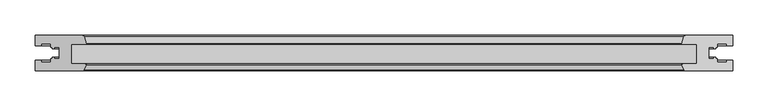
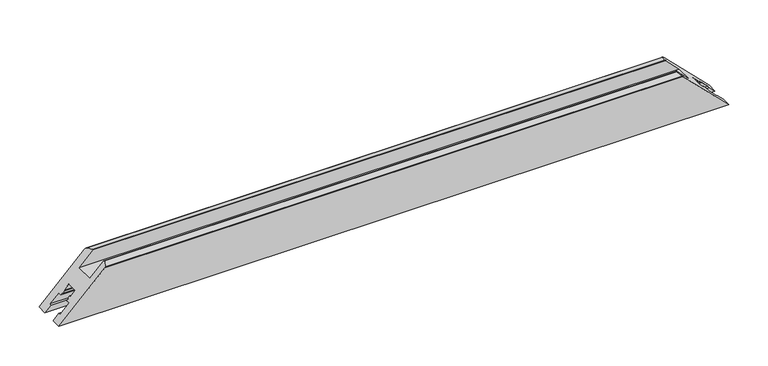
"""IFC4 building model written with IfcOpenShell, lengths in millimetres: proxy geometry, Weiku - Montante - Folha de correr 02.2.01.020 : Weiku - Montante - Folha de correr 02.2.01.020."""

import ifcopenshell
import ifcopenshell.guid

model = None  # the IFC model being written
_history = None  # IfcOwnerHistory: only IFC2X3 demands one
_inside = {}  # id of a spatial element -> (the spatial element, [elements in it])
_under = {}  # id of a project, library or spatial element -> (it, [spatial elements below it])
_declared = {}  # id of a project -> (the project, [libraries it declares])
_typed = {}  # id of a type object -> (the type object, [elements of that type])
_made_of = {}  # id of a material, layer set ... -> (it, [elements and type objects made of it])


def new_model(schema):
    """Start an empty IFC model of exactly this schema.

    Asked for "IFC4X3", IfcOpenShell would pick the latest addendum, in which some entities
    have other attributes; the version numbers below select the first issue.
    IFC2X3 requires an IfcOwnerHistory on every rooted entity: one is made here for all.
    """
    global model, _history
    if schema == "IFC4X3":
        model = ifcopenshell.file(schema_version=(4, 3, 0, 0))
    else:
        model = ifcopenshell.file(schema=schema)
    _inside.clear()
    _under.clear()
    _declared.clear()
    _typed.clear()
    _made_of.clear()
    _history = None
    if model.schema == "IFC2X3":
        org = make("IfcOrganization", Name="unknown")
        user = make(
            "IfcPersonAndOrganization",
            ThePerson=make("IfcPerson", FamilyName="unknown"),
            TheOrganization=org,
        )
        app = make(
            "IfcApplication",
            ApplicationDeveloper=org,
            Version="unknown",
            ApplicationFullName="unknown",
            ApplicationIdentifier="unknown",
        )
        _history = make(
            "IfcOwnerHistory",
            OwningUser=user,
            OwningApplication=app,
            ChangeAction="ADDED",
            CreationDate=0,
        )
    return model


def make(cls, **values):
    """One entity of the class cls with the attributes given. An attribute that is None is left unset."""
    return model.create_entity(
        cls, **{name: value for name, value in values.items() if value is not None}
    )


def rooted(cls, **values):
    """An entity with a GlobalId (a new one), such as an element, a storey or a relation."""
    return make(cls, GlobalId=ifcopenshell.guid.new(), OwnerHistory=_history, **values)


def si_unit(unit_type, name, prefix=None):
    """IfcSIUnit, for example si_unit("LENGTHUNIT", "METRE", prefix="MILLI")."""
    return make("IfcSIUnit", UnitType=unit_type, Prefix=prefix, Name=name)


def assignment(units):
    """IfcUnitAssignment: the units of a project."""
    return None if units is None else make("IfcUnitAssignment", Units=units)


def point(xyz):
    """IfcCartesianPoint."""
    return None if xyz is None else make("IfcCartesianPoint", Coordinates=xyz)


def direction(xyz):
    """IfcDirection."""
    return None if xyz is None else make("IfcDirection", DirectionRatios=xyz)


def frame(location, z_axis=None, x_axis=None):
    """IfcAxis2Placement3D, a coordinate frame: its origin and axes. An axis left out is left unset."""
    return make(
        "IfcAxis2Placement3D",
        Location=point(location),
        Axis=direction(z_axis),
        RefDirection=direction(x_axis),
    )


def origin():
    """The frame at (0, 0, 0) with its axes left unset."""
    return frame((0.0, 0.0, 0.0))


def place(relative_to, where):
    """IfcLocalPlacement: puts the frame where relative to a parent placement (None: the world)."""
    return make(
        "IfcLocalPlacement", PlacementRelTo=relative_to, RelativePlacement=where
    )


def context(
    kind, dimensions, precision=None, world=None, true_north=None, identifier=None
):
    """IfcGeometricRepresentationContext, for example the 3D "Model" context."""
    return make(
        "IfcGeometricRepresentationContext",
        ContextIdentifier=identifier,
        ContextType=kind,
        CoordinateSpaceDimension=dimensions,
        Precision=precision,
        WorldCoordinateSystem=world,
        TrueNorth=true_north,
    )


def project(units=None, contexts=None):
    """IfcProject with its units and contexts."""
    return rooted(
        "IfcProject",
        Name="project",
        RepresentationContexts=contexts,
        UnitsInContext=assignment(units),
    )


def spatial(cls, under=None, at=None, **own):
    """A site, building, storey or space (cls), placed at a placement, below another one or the project."""
    s = rooted(cls, ObjectPlacement=at, **own)
    if under is not None:
        _under.setdefault(under.id(), (under, []))[1].append(s)
    return s


def ellipse_curve(where, semi_axis1, semi_axis2):
    """IfcEllipse in the frame where."""
    return make(
        "IfcEllipse", Position=where, SemiAxis1=semi_axis1, SemiAxis2=semi_axis2
    )


def shape(context_of_items, identifier, shape_type, items):
    """IfcShapeRepresentation: the items that make up one representation, for example the "Body"."""
    return make(
        "IfcShapeRepresentation",
        ContextOfItems=context_of_items,
        RepresentationIdentifier=identifier,
        RepresentationType=shape_type,
        Items=items,
    )


def source(mapping_origin, context_of_items, identifier, shape_type, items):
    """IfcRepresentationMap: a shape defined once, which mapped items show again and again."""
    return make(
        "IfcRepresentationMap",
        MappingOrigin=mapping_origin,
        MappedRepresentation=shape(context_of_items, identifier, shape_type, items),
    )


def transform(
    local_origin,
    x_axis=None,
    y_axis=None,
    z_axis=None,
    scale=None,
    scale2=None,
    scale3=None,
    uniform=True,
):
    """IfcCartesianTransformationOperator3D, or its non-uniform kind. x_axis, y_axis, z_axis: its Axis1, 2, 3."""
    if uniform:
        return make(
            "IfcCartesianTransformationOperator3D",
            Axis1=direction(x_axis),
            Axis2=direction(y_axis),
            LocalOrigin=point(local_origin),
            Scale=scale,
            Axis3=direction(z_axis),
        )
    return make(
        "IfcCartesianTransformationOperator3DnonUniform",
        Axis1=direction(x_axis),
        Axis2=direction(y_axis),
        LocalOrigin=point(local_origin),
        Scale=scale,
        Axis3=direction(z_axis),
        Scale2=scale2,
        Scale3=scale3,
    )


def mapped(mapping_source, mapping_target):
    """IfcMappedItem: shows the shape of a source again, moved by a transform."""
    return make(
        "IfcMappedItem", MappingSource=mapping_source, MappingTarget=mapping_target
    )


def made_of(thing, what):
    """Note that an element or type object is made of a material, layer set ...; save() writes the relation."""
    if what is not None:
        _made_of.setdefault(what.id(), (what, []))[1].append(thing)
    return thing


def element(
    cls,
    number,
    at=None,
    inside=None,
    cuts=None,
    type_object=None,
    material=None,
    context=None,
    identifier="Body",
    shape_type=None,
    held_by="IfcProductDefinitionShape",
    body=None,
    shapes=None,
    **own,
):
    """One element of the class cls, such as IfcWall. Its Tag is "e" and its number.

    at: its placement. inside: the storey or other place that contains it. cuts: it is an
    opening in that element (IfcRelVoidsElement). A single representation is given by context,
    identifier, shape_type and body (its items); several are given by shapes. held_by: the class
    of the entity that holds the representations. save() writes the other relations.
    """
    e = rooted(cls, Tag="e%d" % number, ObjectPlacement=at, **own)
    if body is not None:
        shapes = [shape(context, identifier, shape_type, body)]
    if shapes is not None:
        e.Representation = make(held_by, Representations=shapes)
    if inside is not None:
        _inside.setdefault(inside.id(), (inside, []))[1].append(e)
    if cuts is not None:
        rooted(
            "IfcRelVoidsElement", RelatingBuildingElement=cuts, RelatedOpeningElement=e
        )
    if type_object is not None:
        _typed.setdefault(type_object.id(), (type_object, []))[1].append(e)
    return made_of(e, material)


def aggregate(whole, parts):
    """IfcRelAggregates: a whole, such as a stair, and the parts it consists of."""
    return rooted("IfcRelAggregates", RelatingObject=whole, RelatedObjects=parts)


def save(model, path):
    """Write the relations noted so far, then the file.

    IfcRelAggregates (storeys below a building ...), IfcRelContainedInSpatialStructure (elements
    in a storey), IfcRelDefinesByType, IfcRelAssociatesMaterial and IfcRelDeclares: one each for
    every whole, place, type object, material and project.
    """
    for whole, parts in _under.values():
        aggregate(whole, parts)
    for where, things in _inside.values():
        rooted(
            "IfcRelContainedInSpatialStructure",
            RelatedElements=things,
            RelatingStructure=where,
        )
    for kind, things in _typed.values():
        rooted("IfcRelDefinesByType", RelatedObjects=things, RelatingType=kind)
    for what, things in _made_of.values():
        rooted("IfcRelAssociatesMaterial", RelatedObjects=things, RelatingMaterial=what)
    for by, libraries in _declared.values():
        rooted("IfcRelDeclares", RelatingContext=by, RelatedDefinitions=libraries)
    model.write(path)


def plane_surface(at):
    """IfcPlane: the flat surface through the origin of the frame at, square to its z axis."""
    return make("IfcPlane", Position=at)


def cylinder_surface(at, radius):
    """IfcCylindricalSurface: all points at the distance radius from the z axis of the frame at."""
    return make("IfcCylindricalSurface", Position=at, Radius=radius)


def advanced_brep(points, edges, surfaces, faces):
    """IfcAdvancedBrep: a solid bounded by faces that lie on surfaces and meet in shared edges.

    An edge is (start, end): straight between two places in points (the first is 0);
    or (start, end, curve); or (start, end, curve, False) where it runs against its curve.
    A face is (place in surfaces, loops), or (place, loops, False) where it looks against
    its surface's normal. A loop lists edges by number (the first is 1), with a minus sign
    where the edge is run from its end to its start. The first loop is the outer one.
    """
    corners = [point(p) for p in points]
    vertices = [make("IfcVertexPoint", VertexGeometry=c) for c in corners]
    made = []
    for start, end, *more in edges:
        made.append(
            make(
                "IfcEdgeCurve",
                EdgeStart=vertices[start],
                EdgeEnd=vertices[end],
                EdgeGeometry=more[0] if more else make("IfcPolyline", Points=[corners[start], corners[end]]),
                SameSense=more[1] if len(more) > 1 else True,
            )
        )
    hull = []
    for where, loops, *sense in faces:
        bounds = []
        for j, loop in enumerate(loops):
            ring = [make("IfcOrientedEdge", EdgeElement=made[abs(k) - 1], Orientation=k > 0) for k in loop]
            bounds.append(
                make(
                    "IfcFaceOuterBound" if j == 0 else "IfcFaceBound",
                    Bound=make("IfcEdgeLoop", EdgeList=ring),
                    Orientation=True,
                )
            )
        hull.append(make("IfcAdvancedFace", Bounds=bounds, FaceSurface=surfaces[where], SameSense=sense[0] if sense else True))
    return make("IfcAdvancedBrep", Outer=make("IfcClosedShell", CfsFaces=hull))


def generic_models_39b7ede1(model_context):
    return source(origin(), model_context, "Body", "AdvancedBrep", [
        advanced_brep(
        [(493.5, 50.0, 0.0), (-493.5, 50.0, 0.0), (-427.0004942, 50.0, 66.4995058), (427.0004942, 50.0, 66.4995058), (493.5, 35.5, 0.0), (-493.5, 35.5, 0.0), (-493.5, 0.0, 0.0), (493.5, 0.0, 0.0), (425.9879875, 0.0, 67.5120125), (-425.9879875, 0.0, 67.5120125), (-484.9, 35.5, 8.6), (-484.9, 38.3, 8.6), (-471.7, 38.3, 21.8), (-471.7, 33.1, 21.8), (-469.3524152, 33.1, 24.1475848), (-469.5273926, 31.1, 23.9726074), (-466.7, 31.1, 26.8), (-466.7, 33.1, 26.8), (-459.5, 33.1, 34.0), (-459.5, 16.9, 34.0), (-466.7, 16.9, 26.8), (-466.7, 18.9, 26.8), (-469.5273926, 18.9, 23.9726074), (-469.3524152, 16.9, 24.1475848), (-471.7, 16.9, 21.8), (-471.7, 11.7, 21.8), (-484.9, 11.7, 8.6), (-484.9, 14.5, 8.6), (-493.5, 14.5, 0.0), (-425.0940268, 0.5518546, 68.4059732), (-421.5520406, 7.617411, 71.9479594), (-422.7141895, 9.5, 70.7858105), (-442.5007611, 9.5, 50.9992389), (-442.5007611, 37.5, 50.9992389), (-422.0007611, 37.5, 71.4992389), (-421.5177981, 38.1294095, 71.9822019), (-424.1027168, 47.7764571, 69.3972832), (424.1027168, 47.7764571, 69.3972832), (421.5177981, 38.1294095, 71.9822019), (422.0007611, 37.5, 71.4992389), (442.5007611, 37.5, 50.9992389), (442.5007611, 9.5, 50.9992389), (422.7141895, 9.5, 70.7858105), (421.5520406, 7.617411, 71.9479594), (425.0940268, 0.5518546, 68.4059732), (493.5, 14.5, 0.0), (484.9, 14.5, 8.6), (484.9, 11.7, 8.6), (471.7, 11.7, 21.8), (471.7, 16.9, 21.8), (469.3524152, 16.9, 24.1475848), (469.5273926, 18.9, 23.9726074), (466.7, 18.9, 26.8), (466.7, 16.9, 26.8), (459.5, 16.9, 34.0), (459.5, 33.1, 34.0), (466.7, 33.1, 26.8), (466.7, 31.1, 26.8), (469.5273926, 31.1, 23.9726074), (469.3524152, 33.1, 24.1475848), (471.7, 33.1, 21.8), (471.7, 38.3, 21.8), (484.9, 38.3, 8.6), (484.9, 35.5, 8.6)],
        [
            (0, 1),
            (1, 2),
            (2, 3),
            (3, 0),
            (0, 4),
            (4, 5),
            (5, 1),
            (6, 7),
            (7, 8),
            (8, 9),
            (9, 6),
            (5, 10),
            (10, 11),
            (11, 12),
            (12, 13),
            (13, 14),
            (14, 15),
            (15, 16),
            (16, 17),
            (17, 18),
            (18, 19),
            (19, 20),
            (20, 21),
            (21, 22),
            (22, 23),
            (23, 24),
            (24, 25),
            (25, 26),
            (26, 27),
            (27, 28),
            (28, 6),
            (9, 29, ellipse_curve(frame((-425.9879875, 1.0, 67.5120125), z_axis=(-0.707106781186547, 0.0, 0.7071067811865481), x_axis=(-0.7071067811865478, 0.0, -0.707106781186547)), 1.4142136, 1.0)),
            (29, 30),
            (30, 31, ellipse_curve(frame((-422.7141895, 8.2, 70.7858105), z_axis=(-0.707106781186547, 0.0, 0.7071067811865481), x_axis=(-0.7071067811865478, 0.0, -0.707106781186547)), 1.8384776, 1.3)),
            (31, 32),
            (32, 33),
            (33, 34),
            (34, 35, ellipse_curve(frame((-422.0007611, 38.0, 71.4992389), z_axis=(-0.707106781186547, 0.0, 0.7071067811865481), x_axis=(-0.7071067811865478, 0.0, -0.707106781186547)), 0.7071068, 0.5)),
            (35, 36),
            (36, 2, ellipse_curve(frame((-427.0004942, 47.0, 66.4995058), z_axis=(-0.707106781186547, 0.0, 0.7071067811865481), x_axis=(-0.7071067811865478, 0.0, -0.707106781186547)), 4.2426407, 3.0)),
            (3, 37, ellipse_curve(frame((427.0004942, 47.0, 66.4995058), z_axis=(0.7071067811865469, 0.0, 0.7071067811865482), x_axis=(-0.707106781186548, 0.0, 0.7071067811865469)), 4.2426407, 3.0)),
            (37, 38),
            (38, 39, ellipse_curve(frame((422.0007611, 38.0, 71.4992389), z_axis=(0.7071067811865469, 0.0, 0.7071067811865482), x_axis=(-0.707106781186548, 0.0, 0.7071067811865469)), 0.7071068, 0.5)),
            (39, 40),
            (40, 41),
            (41, 42),
            (42, 43, ellipse_curve(frame((422.7141895, 8.2, 70.7858105), z_axis=(0.7071067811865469, 0.0, 0.7071067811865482), x_axis=(-0.707106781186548, 0.0, 0.7071067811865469)), 1.8384776, 1.3)),
            (43, 44),
            (44, 8, ellipse_curve(frame((425.9879875, 1.0, 67.5120125), z_axis=(0.7071067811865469, 0.0, 0.7071067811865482), x_axis=(-0.707106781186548, 0.0, 0.7071067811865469)), 1.4142136, 1.0)),
            (7, 45),
            (45, 46),
            (46, 47),
            (47, 48),
            (48, 49),
            (49, 50),
            (50, 51),
            (51, 52),
            (52, 53),
            (53, 54),
            (54, 55),
            (55, 56),
            (56, 57),
            (57, 58),
            (58, 59),
            (59, 60),
            (60, 61),
            (61, 62),
            (62, 63),
            (63, 4),
            (44, 29),
            (43, 30),
            (42, 31),
            (41, 32),
            (40, 33),
            (39, 34),
            (38, 35),
            (37, 36),
            (63, 10),
            (62, 11),
            (61, 12),
            (60, 13),
            (59, 14),
            (58, 15),
            (57, 16),
            (56, 17),
            (55, 18),
            (54, 19),
            (53, 20),
            (52, 21),
            (51, 22),
            (50, 23),
            (49, 24),
            (48, 25),
            (47, 26),
            (46, 27),
            (45, 28),
        ],
        [
            plane_surface(frame((-493.5, 50.0, 66.4995058), z_axis=(0.0, 1.0, 0.0), x_axis=(1.0, 0.0, 0.0))),
            plane_surface(frame((-493.5, 50.0, 0.0), z_axis=(0.0, 0.0, -1.0), x_axis=(1.0, 0.0, 0.0))),
            plane_surface(frame((-493.5, 0.0, 0.0), z_axis=(0.0, -1.0, 0.0), x_axis=(1.0, 0.0, 0.0))),
            plane_surface(frame((-521.7842712, 0.0, -28.2842712), z_axis=(-0.707106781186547, 0.0, 0.7071067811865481), x_axis=(0.0, 1.0, 0.0))),
            plane_surface(frame((413.5, 0.0, 80.0), z_axis=(0.7071067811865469, 0.0, 0.7071067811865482), x_axis=(0.0, 1.0, 0.0))),
            cylinder_surface(frame((-493.5, 1.0, 67.5120125), z_axis=(-1.0, 0.0, 0.0), x_axis=(0.0, 1.0, 0.0)), 1.0),
            plane_surface(frame((-493.5, 0.5518546, 68.4059732), z_axis=(0.0, -0.4481453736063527, 0.8939606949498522), x_axis=(1.0, 0.0, 0.0))),
            cylinder_surface(frame((-493.5, 8.2, 70.7858105), z_axis=(-1.0, 0.0, 0.0), x_axis=(0.0, 1.0, 0.0)), 1.3),
            plane_surface(frame((-493.5, 9.5, 70.7858105), z_axis=(0.0, 1.0, 0.0), x_axis=(1.0, 0.0, 0.0))),
            plane_surface(frame((-493.5, 9.5, 50.9992389), z_axis=(0.0, 0.0, 1.0), x_axis=(1.0, 0.0, 0.0))),
            plane_surface(frame((-493.5, 37.5, 50.9992389), z_axis=(0.0, -1.0, 0.0), x_axis=(1.0, 0.0, 0.0))),
            cylinder_surface(frame((-493.5, 38.0, 71.4992389), z_axis=(-1.0, 0.0, 0.0), x_axis=(0.0, 1.0, 0.0)), 0.5),
            plane_surface(frame((-493.5, 38.1294095, 71.9822019), z_axis=(0.0, 0.2588190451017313, 0.9659258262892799), x_axis=(1.0, 0.0, 0.0))),
            cylinder_surface(frame((-493.5, 47.0, 66.4995058), z_axis=(-1.0, 0.0, 0.0), x_axis=(0.0, 1.0, 0.0)), 3.0),
            plane_surface(frame((-493.5, 35.5, 0.0), z_axis=(0.0, -1.0, 0.0), x_axis=(1.0, 0.0, 0.0))),
            plane_surface(frame((-493.5, 35.5, 8.6), z_axis=(0.0, 0.0, 1.0), x_axis=(1.0, 0.0, 0.0))),
            plane_surface(frame((-493.5, 38.3, 8.6), z_axis=(0.0, -1.0, 0.0), x_axis=(1.0, 0.0, 0.0))),
            plane_surface(frame((-493.5, 38.3, 21.8), z_axis=(0.0, 0.0, -1.0), x_axis=(1.0, 0.0, 0.0))),
            plane_surface(frame((-493.5, 33.1, 21.8), z_axis=(0.0, -1.0, 0.0), x_axis=(1.0, 0.0, 0.0))),
            plane_surface(frame((-493.5, 33.1, 24.1475848), z_axis=(0.0, 0.08715574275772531, -0.9961946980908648), x_axis=(1.0, 0.0, 0.0))),
            plane_surface(frame((-493.5, 31.1, 23.9726074), z_axis=(0.0, -1.0, 0.0), x_axis=(1.0, 0.0, 0.0))),
            plane_surface(frame((-493.5, 31.1, 26.8), z_axis=(0.0, 0.0, 1.0), x_axis=(1.0, 0.0, 0.0))),
            plane_surface(frame((-493.5, 33.1, 26.8), z_axis=(0.0, -1.0, 0.0), x_axis=(1.0, 0.0, 0.0))),
            plane_surface(frame((-493.5, 33.1, 34.0), z_axis=(0.0, 0.0, -1.0), x_axis=(1.0, 0.0, 0.0))),
            plane_surface(frame((-493.5, 16.9, 34.0), z_axis=(0.0, 1.0, 0.0), x_axis=(1.0, 0.0, 0.0))),
            plane_surface(frame((-493.5, 16.9, 26.8), z_axis=(0.0, 0.0, 1.0), x_axis=(1.0, 0.0, 0.0))),
            plane_surface(frame((-493.5, 18.9, 26.8), z_axis=(0.0, 1.0, 0.0), x_axis=(1.0, 0.0, 0.0))),
            plane_surface(frame((-493.5, 18.9, 23.9726074), z_axis=(0.0, -0.08715574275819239, -0.9961946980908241), x_axis=(1.0, 0.0, 0.0))),
            plane_surface(frame((-493.5, 16.9, 24.1475848), z_axis=(0.0, 1.0, 0.0), x_axis=(1.0, 0.0, 0.0))),
            plane_surface(frame((-493.5, 16.9, 21.8), z_axis=(0.0, 0.0, -1.0), x_axis=(1.0, 0.0, 0.0))),
            plane_surface(frame((-493.5, 11.7, 21.8), z_axis=(0.0, 1.0, 0.0), x_axis=(1.0, 0.0, 0.0))),
            plane_surface(frame((-493.5, 11.7, 8.6), z_axis=(0.0, 0.0, 1.0), x_axis=(1.0, 0.0, 0.0))),
            plane_surface(frame((-493.5, 14.5, 8.6), z_axis=(0.0, 1.0, 0.0), x_axis=(1.0, 0.0, 0.0))),
            plane_surface(frame((-493.5, 14.5, 0.0), z_axis=(0.0, 0.0, -1.0), x_axis=(1.0, 0.0, 0.0))),
        ],
        [
            (0, [[1, 2, 3, 4]]),
            (1, [[-1, 5, 6, 7]]),
            (2, [[8, 9, 10, 11]]),
            (3, [[-2, -7, 12, 13, 14, 15, 16, 17, 18, 19, 20, 21, 22, 23, 24, 25, 26, 27, 28, 29, 30, 31, -11, 32, 33, 34, 35, 36, 37, 38, 39, 40]]),
            (4, [[-4, 41, 42, 43, 44, 45, 46, 47, 48, 49, -9, 50, 51, 52, 53, 54, 55, 56, 57, 58, 59, 60, 61, 62, 63, 64, 65, 66, 67, 68, 69, -5]]),
            (5, [[-32, -10, -49, 70]]),
            (6, [[-33, -70, -48, 71]]),
            (7, [[-34, -71, -47, 72]]),
            (8, [[-35, -72, -46, 73]]),
            (9, [[-36, -73, -45, 74]]),
            (10, [[-37, -74, -44, 75]]),
            (11, [[-38, -75, -43, 76]]),
            (12, [[-39, -76, -42, 77]]),
            (13, [[-40, -77, -41, -3]]),
            (14, [[-6, -69, 78, -12]]),
            (15, [[-13, -78, -68, 79]]),
            (16, [[-14, -79, -67, 80]]),
            (17, [[-15, -80, -66, 81]]),
            (18, [[-16, -81, -65, 82]]),
            (19, [[-17, -82, -64, 83]]),
            (20, [[-18, -83, -63, 84]]),
            (21, [[-19, -84, -62, 85]]),
            (22, [[-20, -85, -61, 86]]),
            (23, [[-21, -86, -60, 87]]),
            (24, [[-22, -87, -59, 88]]),
            (25, [[-23, -88, -58, 89]]),
            (26, [[-24, -89, -57, 90]]),
            (27, [[-25, -90, -56, 91]]),
            (28, [[-26, -91, -55, 92]]),
            (29, [[-27, -92, -54, 93]]),
            (30, [[-28, -93, -53, 94]]),
            (31, [[-29, -94, -52, 95]]),
            (32, [[96, -30, -95, -51]]),
            (33, [[-8, -31, -96, -50]]),
        ],
    ),
    ])


if __name__ == "__main__":
    model = new_model("IFC4")
    model_context = context("Model", 3, world=origin())
    ifc_project = project(units=[si_unit("LENGTHUNIT", "METRE", prefix="MILLI")], contexts=[model_context])
    site = spatial("IfcSite", under=ifc_project)
    building = spatial("IfcBuilding", under=site)
    placement = place(None, origin())
    generic_models_shape = generic_models_39b7ede1(model_context)
    element("IfcBuildingElementProxy", 1, Name="Weiku - Montante - Folha de correr 02.2.01.020 : Weiku - Montante - Folha de correr 02.2.01.020", ObjectType="Weiku - Montante - Folha de correr 02.2.01.020 : Weiku - Montante - Folha de correr 02.2.01.020", at=placement, inside=building, context=model_context, shape_type="MappedRepresentation", body=[
        mapped(generic_models_shape, transform((0.0, 0.0, 0.0), x_axis=(1.0, 0.0, 0.0), y_axis=(0.0, 1.0, 0.0), z_axis=(0.0, 0.0, 1.0))),
    ])
    save(model, "model.ifc")
